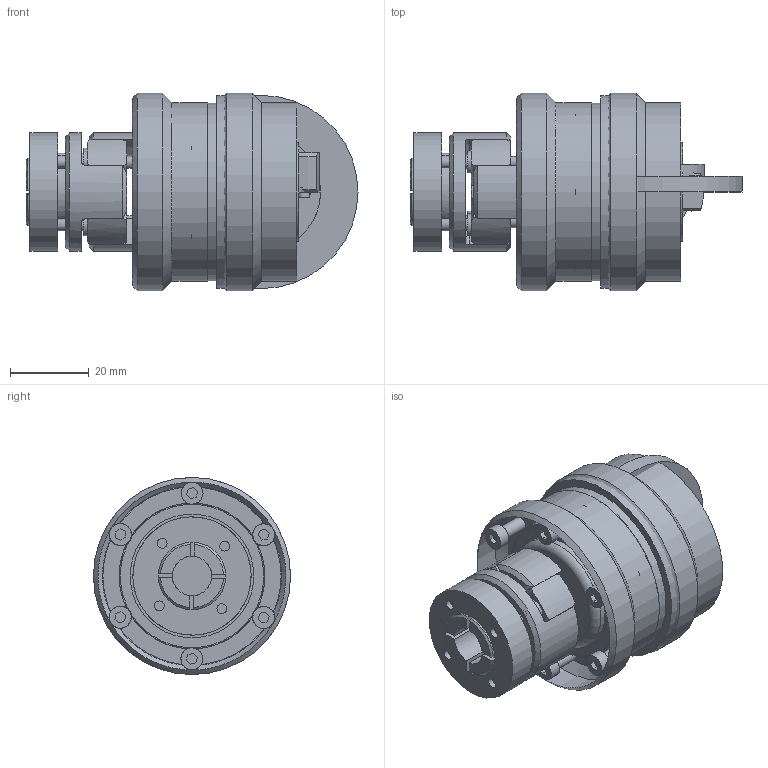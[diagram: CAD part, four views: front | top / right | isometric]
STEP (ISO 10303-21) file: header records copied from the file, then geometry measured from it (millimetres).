
FILE_DESCRIPTION( ( 'Unknown' ), '1' );
FILE_NAME( 'C:/Dokumente und Einstellungen/Sven/Desktop/hp kbk/E-AP/KBK EAP 14-58.stp', 'Unknown', ( 'Unknown' ), ( 'Unknown' ), 'XStep 1.0', 'Unknown', ' ' );
FILE_SCHEMA( ( 'automotive_design' ) );
Length unit declared in the file: millimetre
Products named in the file (17): Assem1; Assem2; Assem3; Assem4; ball_bearing_-_61904_0_01; ball_bearing_-_61904_0_02; ball_bearing_-_61904_0_03; Zylinderschraube DIN 912; L-P-10 Grundteil; Stellring 10; Druckring 10; a_20; Flansch L-LL10; Elastomerflansch EK 10; Zahnkranz_14_Standard; KBE3-14_Druckring; KBE 3 C - 14 Nabe
Bounding box: 84.2 x 50 x 50 mm (x, y, z)
Volume: 123554.4 mm3; surface area: 84832.9 mm2
Topology: 40 solids, 40 shells, 702 faces, 1590 edges, 1018 vertices
Faces by surface type: plane 306, cylinder 244, cone 117, torus 35
Full cylindrical faces by diameter (mm): 2 x4, 2.459 x20, 2.5 x8, 2.85 x8, 3 x21, 3.4 x12, 5.5 x13, 5.6 x12, 6 x8, 10 x6, 14 x2, 15 x2, 18.4 x2, 19 x2, 20 x7, 24 x4, 25 x2, 25.6 x6, 29 x2, 29.993 x2, 30 x6, 31.4 x6, 37 x7, 38 x2, 40 x2, 45 x2, 45.2 x2, 49 x2, 50 x2
Entity records: 7886 total; most frequent: CARTESIAN_POINT 1587, DIRECTION 1332, ORIENTED_EDGE 1004, AXIS2_PLACEMENT_3D 609, EDGE_CURVE 502, EDGE_LOOP 440, VERTEX_POINT 368, FACE_OUTER_BOUND 352
